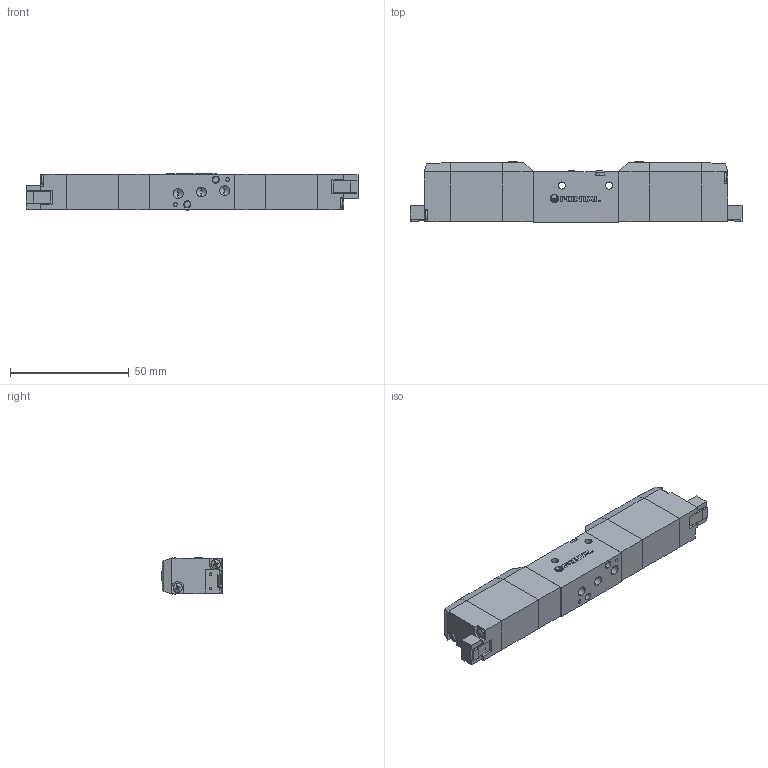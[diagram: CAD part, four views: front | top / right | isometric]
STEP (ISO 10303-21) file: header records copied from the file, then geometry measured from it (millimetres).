
FILE_DESCRIPTION (( 'STEP AP203' ), '1' );
FILE_NAME ('RCD345#-M5-#-SP-#.STEP', '2016-06-14T08:57:31', ( '' ), ( '' ), 'SwSTEP 2.0', 'SolidWorks 2014', '' );
FILE_SCHEMA (( 'CONFIG_CONTROL_DESIGN' ));
Length unit declared in the file: millimetre
Products named in the file (12): ISO 7045 - M2.5 x 25; PC5-6; PC-MARK; ISO 7045 - M2 x 10; PC5-7; PC5-10; RCD345#-M5-#-SP-#; PC5-5; PC5-8; RCS-2
Assembly tree (14 placements, depth 4):
  RCD345#-M5-#-SP-#
    RCS-2
    PC-MARK
    (unnamed)  x2
      PC5-5
      PC5-6
      (unnamed)
        PC5-7
        ISO 7045 - M2 x 10  x2
        PC5-8
      PC5-10
    ISO 7045 - M2.5 x 25  x2
Bounding box: 140 x 26 x 15.4 mm (x, y, z)
Volume: 44448.9 mm3; surface area: 19127.3 mm2
Topology: 26 solids, 26 shells, 606 faces, 1494 edges, 935 vertices
Faces by surface type: plane 385, cylinder 101, cone 76, torus 24, sphere 12, bspline 8
Entity records: 11159 total; most frequent: CARTESIAN_POINT 1862, DIRECTION 1683, ORIENTED_EDGE 1618, EDGE_CURVE 809, AXIS2_PLACEMENT_3D 575, LINE 533, VECTOR 533, VERTEX_POINT 522
